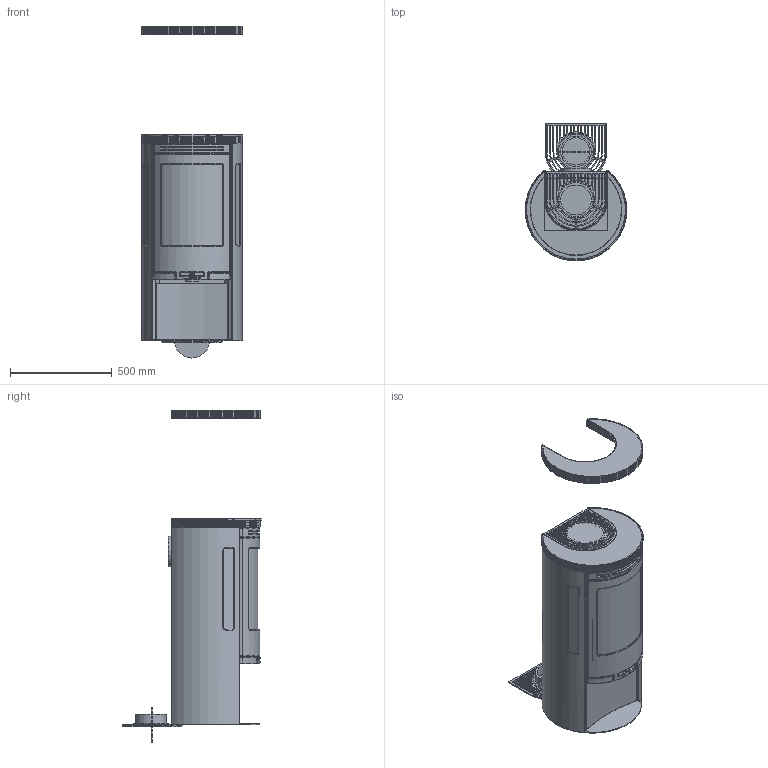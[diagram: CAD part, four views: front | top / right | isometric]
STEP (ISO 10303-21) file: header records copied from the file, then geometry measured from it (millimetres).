
FILE_DESCRIPTION( ( 'Unknown' ), '1' );
FILE_NAME( 'C:/Users/jonasl/AppData/Roaming/Unigraphics Solutions/Solid Edge/Insight/insight/insight/interior models/C550 Assembly.stp', 'Unknown', ( 'Unknown' ), ( 'Unknown' ), 'PSStep 13.0', 'Unknown', ' ' );
FILE_SCHEMA( ( 'AUTOMOTIVE_DESIGN { 1 0 10303 214 1 1 1 1 }' ) );
Length unit declared in the file: millimetre
Products named in the file (29): Assem1; Rear C550; Plate Top C550A; Top C550 A; Connection; Insert C500; Inside Shielding C550; Lid; Side Glas C500; Top Cast Iron C500; Top Plate C500; Top Soapstone C500; Sheet Metal Plinth C550A; Foot C500; Glass C500; Sheet Metal Plinth C500; Lattice C500; Bottom Cast Iron C500; Door C500; Vermiculite C500; Sheet Metal Lid C500; Fire C500; Sides C550
Bounding box: 499 x 678.45 x 1629.15 mm (x, y, z)
Volume: 300337647.5 mm3; surface area: 20880388.8 mm2
Topology: 59 solids, 59 shells, 3529 faces, 9383 edges, 6096 vertices
Faces by surface type: plane 2026, cylinder 827, extrusion 310, bspline 262, torus 64, sphere 28, cone 12
Full cylindrical faces by diameter (mm): 62 x2, 66 x2, 134 x3, 150 x3, 170 x5, 172 x2, 178 x4, 180 x2, 202 x2, 212 x2
Entity records: 106843 total; most frequent: CARTESIAN_POINT 50696, ORIENTED_EDGE 9264, DIRECTION 7614, EDGE_CURVE 4632, VERTEX_POINT 3024, VECTOR 2798, LINE 2643, AXIS2_PLACEMENT_3D 2408
